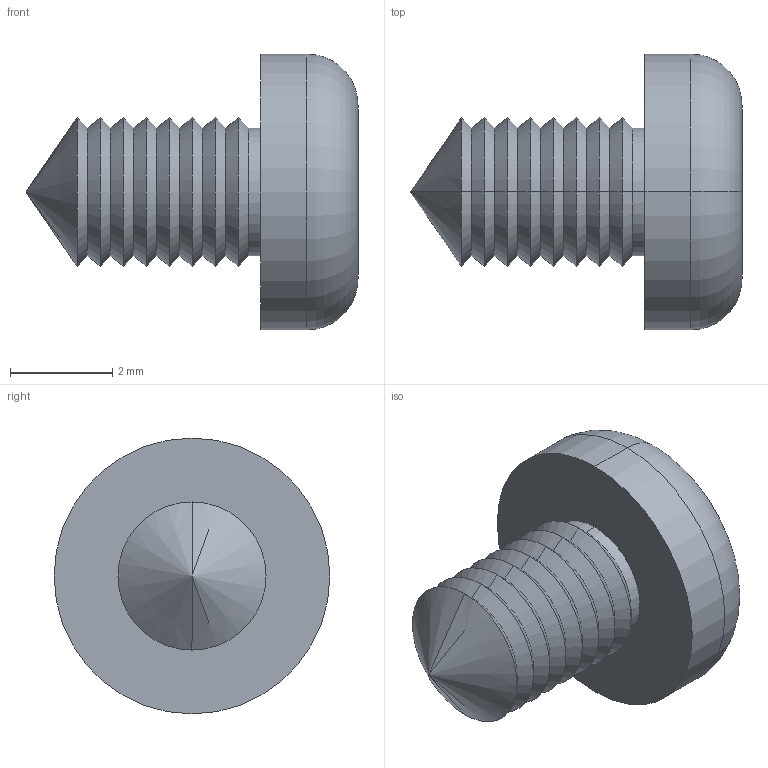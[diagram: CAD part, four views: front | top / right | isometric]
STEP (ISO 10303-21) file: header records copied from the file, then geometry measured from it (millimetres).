
FILE_DESCRIPTION (( 'STEP AP214' ), '1' );
FILE_NAME ('Cargol 2,9x6,5 PP80.STEP', '2018-01-16T01:53:57', ( 'aaa' ), ( '' ), 'SwSTEP 2.0', 'SolidWorks 2013', '' );
FILE_SCHEMA (( 'AUTOMOTIVE_DESIGN' ));
Length unit declared in the file: millimetre
Products named in the file (1): Cargol 2,9x6,5 PP80
Bounding box: 6.5 x 5.4 x 5.4 mm (x, y, z)
Volume: 61.7 mm3; surface area: 119.6 mm2
Topology: 1 solids, 1 shells, 53 faces, 116 edges, 65 vertices
Faces by surface type: cone 32, plane 15, cylinder 4, torus 2
Entity records: 1440 total; most frequent: DIRECTION 264, CARTESIAN_POINT 233, ORIENTED_EDGE 228, EDGE_CURVE 114, AXIS2_PLACEMENT_3D 96, VECTOR 72, LINE 72, VERTEX_POINT 65
